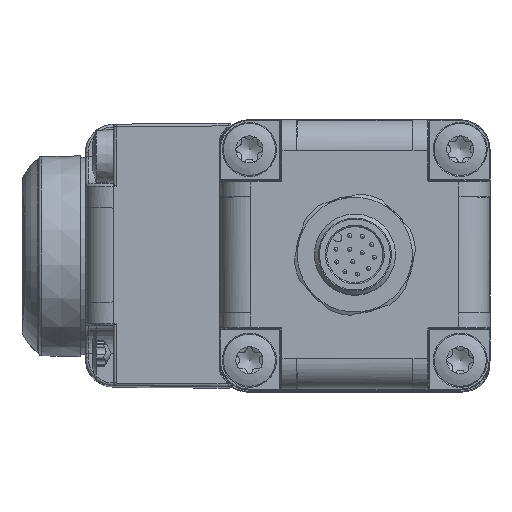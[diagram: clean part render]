
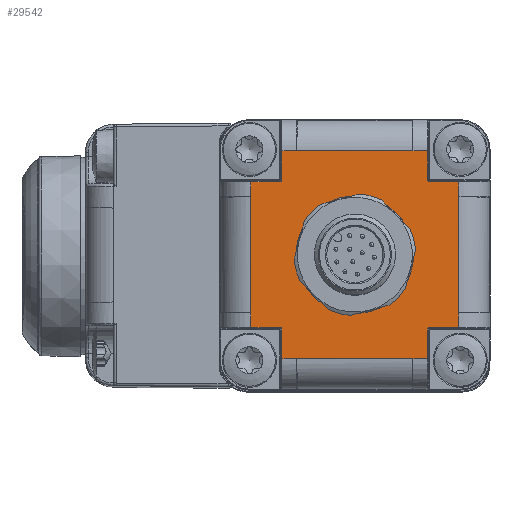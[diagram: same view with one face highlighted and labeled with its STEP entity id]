
A CAD part, top view. The second image highlights one B-rep face of the part: STEP entity #29542.
In plain terms, the highlighted planar face has unit normal (0, 0, 1).
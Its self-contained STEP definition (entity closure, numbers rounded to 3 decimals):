
#619=FACE_BOUND('',#7330,.T.);
#716=ELLIPSE('',#31649,0.2,0.2);
#717=ELLIPSE('',#31650,0.2,0.2);
#718=ELLIPSE('',#31651,0.2,0.2);
#719=ELLIPSE('',#31652,0.2,0.2);
#995=PLANE('',#31648);
#1514=LINE('',#45534,#3144);
#1515=LINE('',#45538,#3145);
#1516=LINE('',#45540,#3146);
#1517=LINE('',#45542,#3147);
#1518=LINE('',#45544,#3148);
#1519=LINE('',#45546,#3149);
#1520=LINE('',#45550,#3150);
#1521=LINE('',#45552,#3151);
#1522=LINE('',#45554,#3152);
#1523=LINE('',#45556,#3153);
#1524=LINE('',#45558,#3154);
#1525=LINE('',#45562,#3155);
#1526=LINE('',#45564,#3156);
#1527=LINE('',#45566,#3157);
#1528=LINE('',#45568,#3158);
#1529=LINE('',#45570,#3159);
#1530=LINE('',#45574,#3160);
#1531=LINE('',#45576,#3161);
#1532=LINE('',#45578,#3162);
#1533=LINE('',#45579,#3163);
#3144=VECTOR('',#35556,10.);
#3145=VECTOR('',#35559,10.);
#3146=VECTOR('',#35560,10.);
#3147=VECTOR('',#35561,10.);
#3148=VECTOR('',#35562,10.);
#3149=VECTOR('',#35563,10.);
#3150=VECTOR('',#35566,10.);
#3151=VECTOR('',#35567,10.);
#3152=VECTOR('',#35568,10.);
#3153=VECTOR('',#35569,10.);
#3154=VECTOR('',#35570,10.);
#3155=VECTOR('',#35573,10.);
#3156=VECTOR('',#35574,10.);
#3157=VECTOR('',#35575,10.);
#3158=VECTOR('',#35576,10.);
#3159=VECTOR('',#35577,10.);
#3160=VECTOR('',#35580,10.);
#3161=VECTOR('',#35581,10.);
#3162=VECTOR('',#35582,10.);
#3163=VECTOR('',#35583,10.);
#5403=FACE_OUTER_BOUND('',#7329,.T.);
#7329=EDGE_LOOP('',(#20282,#20283,#20284,#20285,#20286,#20287,#20288,#20289,
#20290,#20291,#20292,#20293,#20294,#20295,#20296,#20297,#20298,#20299,#20300,
#20301,#20302,#20303,#20304,#20305));
#7330=EDGE_LOOP('',(#20306));
#9354=CIRCLE('',#31600,8.7);
#12224=VERTEX_POINT('',#45232);
#12321=VERTEX_POINT('',#45532);
#12322=VERTEX_POINT('',#45533);
#12323=VERTEX_POINT('',#45535);
#12324=VERTEX_POINT('',#45537);
#12325=VERTEX_POINT('',#45539);
#12326=VERTEX_POINT('',#45541);
#12327=VERTEX_POINT('',#45543);
#12328=VERTEX_POINT('',#45545);
#12329=VERTEX_POINT('',#45547);
#12330=VERTEX_POINT('',#45549);
#12331=VERTEX_POINT('',#45551);
#12332=VERTEX_POINT('',#45553);
#12333=VERTEX_POINT('',#45555);
#12334=VERTEX_POINT('',#45557);
#12335=VERTEX_POINT('',#45559);
#12336=VERTEX_POINT('',#45561);
#12337=VERTEX_POINT('',#45563);
#12338=VERTEX_POINT('',#45565);
#12339=VERTEX_POINT('',#45567);
#12340=VERTEX_POINT('',#45569);
#12341=VERTEX_POINT('',#45571);
#12342=VERTEX_POINT('',#45573);
#12343=VERTEX_POINT('',#45575);
#12344=VERTEX_POINT('',#45577);
#15217=EDGE_CURVE('',#12224,#12224,#9354,.T.);
#15321=EDGE_CURVE('',#12321,#12322,#1514,.T.);
#15322=EDGE_CURVE('',#12323,#12321,#716,.T.);
#15323=EDGE_CURVE('',#12324,#12323,#1515,.T.);
#15324=EDGE_CURVE('',#12325,#12324,#1516,.T.);
#15325=EDGE_CURVE('',#12326,#12325,#1517,.T.);
#15326=EDGE_CURVE('',#12327,#12326,#1518,.T.);
#15327=EDGE_CURVE('',#12328,#12327,#1519,.T.);
#15328=EDGE_CURVE('',#12329,#12328,#717,.T.);
#15329=EDGE_CURVE('',#12330,#12329,#1520,.T.);
#15330=EDGE_CURVE('',#12331,#12330,#1521,.T.);
#15331=EDGE_CURVE('',#12332,#12331,#1522,.T.);
#15332=EDGE_CURVE('',#12333,#12332,#1523,.T.);
#15333=EDGE_CURVE('',#12334,#12333,#1524,.T.);
#15334=EDGE_CURVE('',#12335,#12334,#718,.T.);
#15335=EDGE_CURVE('',#12336,#12335,#1525,.T.);
#15336=EDGE_CURVE('',#12337,#12336,#1526,.T.);
#15337=EDGE_CURVE('',#12338,#12337,#1527,.T.);
#15338=EDGE_CURVE('',#12339,#12338,#1528,.T.);
#15339=EDGE_CURVE('',#12340,#12339,#1529,.T.);
#15340=EDGE_CURVE('',#12341,#12340,#719,.T.);
#15341=EDGE_CURVE('',#12342,#12341,#1530,.T.);
#15342=EDGE_CURVE('',#12343,#12342,#1531,.T.);
#15343=EDGE_CURVE('',#12344,#12343,#1532,.T.);
#15344=EDGE_CURVE('',#12322,#12344,#1533,.T.);
#20282=ORIENTED_EDGE('',*,*,#15321,.F.);
#20283=ORIENTED_EDGE('',*,*,#15322,.F.);
#20284=ORIENTED_EDGE('',*,*,#15323,.F.);
#20285=ORIENTED_EDGE('',*,*,#15324,.F.);
#20286=ORIENTED_EDGE('',*,*,#15325,.F.);
#20287=ORIENTED_EDGE('',*,*,#15326,.F.);
#20288=ORIENTED_EDGE('',*,*,#15327,.F.);
#20289=ORIENTED_EDGE('',*,*,#15328,.F.);
#20290=ORIENTED_EDGE('',*,*,#15329,.F.);
#20291=ORIENTED_EDGE('',*,*,#15330,.F.);
#20292=ORIENTED_EDGE('',*,*,#15331,.F.);
#20293=ORIENTED_EDGE('',*,*,#15332,.F.);
#20294=ORIENTED_EDGE('',*,*,#15333,.F.);
#20295=ORIENTED_EDGE('',*,*,#15334,.F.);
#20296=ORIENTED_EDGE('',*,*,#15335,.F.);
#20297=ORIENTED_EDGE('',*,*,#15336,.F.);
#20298=ORIENTED_EDGE('',*,*,#15337,.F.);
#20299=ORIENTED_EDGE('',*,*,#15338,.F.);
#20300=ORIENTED_EDGE('',*,*,#15339,.F.);
#20301=ORIENTED_EDGE('',*,*,#15340,.F.);
#20302=ORIENTED_EDGE('',*,*,#15341,.F.);
#20303=ORIENTED_EDGE('',*,*,#15342,.F.);
#20304=ORIENTED_EDGE('',*,*,#15343,.F.);
#20305=ORIENTED_EDGE('',*,*,#15344,.F.);
#20306=ORIENTED_EDGE('',*,*,#15217,.T.);
#29542=ADVANCED_FACE('',(#5403,#619),#995,.T.);
#31600=AXIS2_PLACEMENT_3D('',#45234,#35402,#35403);
#31648=AXIS2_PLACEMENT_3D('',#45531,#35554,#35555);
#31649=AXIS2_PLACEMENT_3D('',#45536,#35557,#35558);
#31650=AXIS2_PLACEMENT_3D('',#45548,#35564,#35565);
#31651=AXIS2_PLACEMENT_3D('',#45560,#35571,#35572);
#31652=AXIS2_PLACEMENT_3D('',#45572,#35578,#35579);
#35402=DIRECTION('center_axis',(0.,0.,
-1.));
#35403=DIRECTION('ref_axis',(1.,0.,0.));
#35554=DIRECTION('center_axis',(0.,0.,
1.));
#35555=DIRECTION('ref_axis',(-1.,0.,0.));
#35556=DIRECTION('',(0.,1.,0.));
#35557=DIRECTION('center_axis',(0.,0.,
1.));
#35558=DIRECTION('ref_axis',(0.707,-0.707,0.));
#35559=DIRECTION('',(1.,0.,0.));
#35560=DIRECTION('',(0.,1.,0.));
#35561=DIRECTION('',(0.,1.,0.));
#35562=DIRECTION('',(0.,1.,0.));
#35563=DIRECTION('',(-1.,0.,0.));
#35564=DIRECTION('center_axis',(0.,0.,
1.));
#35565=DIRECTION('ref_axis',(0.707,0.707,0.));
#35566=DIRECTION('',(0.,1.,0.));
#35567=DIRECTION('',(-1.,0.,0.));
#35568=DIRECTION('',(-1.,0.,0.));
#35569=DIRECTION('',(-1.,0.,0.));
#35570=DIRECTION('',(0.,-1.,0.));
#35571=DIRECTION('center_axis',(0.,0.,
1.));
#35572=DIRECTION('ref_axis',(-0.707,0.707,0.));
#35573=DIRECTION('',(-1.,0.,0.));
#35574=DIRECTION('',(0.,-1.,0.));
#35575=DIRECTION('',(0.,-1.,0.));
#35576=DIRECTION('',(0.,-1.,0.));
#35577=DIRECTION('',(1.,0.,0.));
#35578=DIRECTION('center_axis',(0.,0.,
1.));
#35579=DIRECTION('ref_axis',(-0.707,-0.707,0.));
#35580=DIRECTION('',(0.,-1.,0.));
#35581=DIRECTION('',(1.,0.,0.));
#35582=DIRECTION('',(1.,0.,0.));
#35583=DIRECTION('',(1.,0.,0.));
#45232=CARTESIAN_POINT('',(-6.152,6.152,169.45));
#45234=CARTESIAN_POINT('Origin',(0.,0.,
169.45));
#45531=CARTESIAN_POINT('Origin',(0.,0.,
169.45));
#45532=CARTESIAN_POINT('',(-10.787,10.987,169.45));
#45533=CARTESIAN_POINT('',(-10.787,15.393,169.45));
#45534=CARTESIAN_POINT('',(-10.787,-5.5,169.45));
#45535=CARTESIAN_POINT('',(-10.987,10.787,169.45));
#45536=CARTESIAN_POINT('Origin',(-10.987,10.987,169.45));
#45537=CARTESIAN_POINT('',(-15.393,10.787,169.45));
#45538=CARTESIAN_POINT('',(10.,10.787,169.45));
#45539=CARTESIAN_POINT('',(-15.393,8.6,169.45));
#45540=CARTESIAN_POINT('',(-15.393,10.,169.45));
#45541=CARTESIAN_POINT('',(-15.393,-8.6,169.45));
#45542=CARTESIAN_POINT('',(-15.393,10.,169.45));
#45543=CARTESIAN_POINT('',(-15.393,-10.787,169.45));
#45544=CARTESIAN_POINT('',(-15.393,10.,169.45));
#45545=CARTESIAN_POINT('',(-10.987,-10.787,169.45));
#45546=CARTESIAN_POINT('',(5.5,-10.787,169.45));
#45547=CARTESIAN_POINT('',(-10.787,-10.987,169.45));
#45548=CARTESIAN_POINT('Origin',(-10.987,-10.987,169.45));
#45549=CARTESIAN_POINT('',(-10.787,-15.393,169.45));
#45550=CARTESIAN_POINT('',(-10.787,-5.5,169.45));
#45551=CARTESIAN_POINT('',(-8.6,-15.393,169.45));
#45552=CARTESIAN_POINT('',(-10.,-15.393,169.45));
#45553=CARTESIAN_POINT('',(8.6,-15.393,169.45));
#45554=CARTESIAN_POINT('',(-10.,-15.393,169.45));
#45555=CARTESIAN_POINT('',(10.787,-15.393,169.45));
#45556=CARTESIAN_POINT('',(-10.,-15.393,169.45));
#45557=CARTESIAN_POINT('',(10.787,-10.987,169.45));
#45558=CARTESIAN_POINT('',(10.787,-10.,169.45));
#45559=CARTESIAN_POINT('',(10.987,-10.787,169.45));
#45560=CARTESIAN_POINT('Origin',(10.987,-10.987,169.45));
#45561=CARTESIAN_POINT('',(15.393,-10.787,169.45));
#45562=CARTESIAN_POINT('',(5.5,-10.787,169.45));
#45563=CARTESIAN_POINT('',(15.393,-8.6,169.45));
#45564=CARTESIAN_POINT('',(15.393,-10.,169.45));
#45565=CARTESIAN_POINT('',(15.393,8.6,169.45));
#45566=CARTESIAN_POINT('',(15.393,-10.,169.45));
#45567=CARTESIAN_POINT('',(15.393,10.787,169.45));
#45568=CARTESIAN_POINT('',(15.393,-10.,169.45));
#45569=CARTESIAN_POINT('',(10.987,10.787,169.45));
#45570=CARTESIAN_POINT('',(10.,10.787,169.45));
#45571=CARTESIAN_POINT('',(10.787,10.987,169.45));
#45572=CARTESIAN_POINT('Origin',(10.987,10.987,169.45));
#45573=CARTESIAN_POINT('',(10.787,15.393,169.45));
#45574=CARTESIAN_POINT('',(10.787,-10.,169.45));
#45575=CARTESIAN_POINT('',(8.6,15.393,169.45));
#45576=CARTESIAN_POINT('',(10.,15.393,169.45));
#45577=CARTESIAN_POINT('',(-8.6,15.393,169.45));
#45578=CARTESIAN_POINT('',(10.,15.393,169.45));
#45579=CARTESIAN_POINT('',(10.,15.393,169.45));
